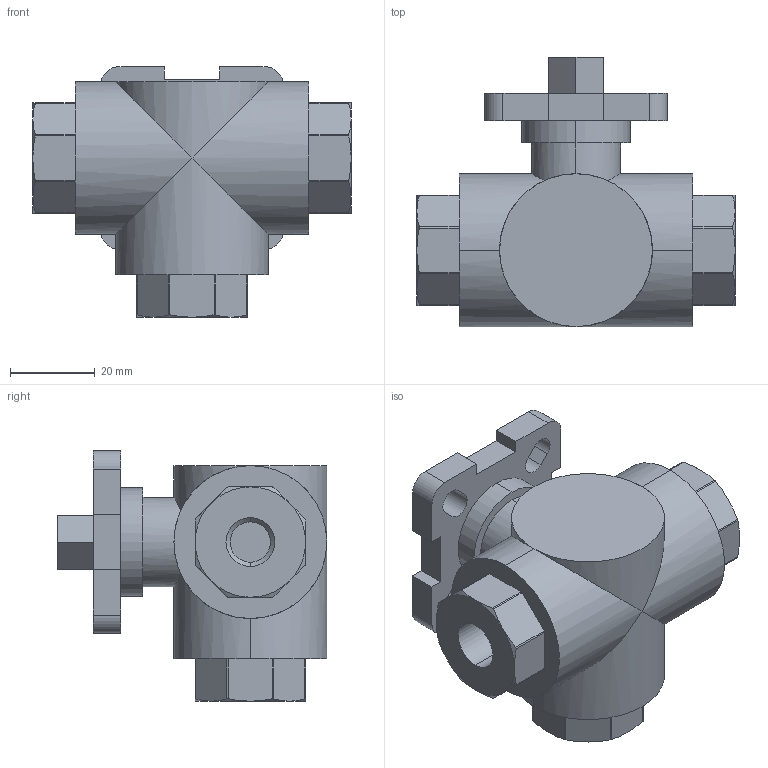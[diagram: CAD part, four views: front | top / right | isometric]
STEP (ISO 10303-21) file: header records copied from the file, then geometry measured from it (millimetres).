
FILE_DESCRIPTION (( 'STEP AP203' ), '1' );
FILE_NAME ('04.622I0070FVPB0.STEP', '2018-10-05T12:11:02', ( '' ), ( '' ), 'SwSTEP 2.0', 'SolidWorks 2014', '' );
FILE_SCHEMA (( 'CONFIG_CONTROL_DESIGN' ));
Length unit declared in the file: millimetre
Products named in the file (1): 04.622I0070FVPB0
Bounding box: 75 x 63.5 x 59 mm (x, y, z)
Volume: 97872.5 mm3; surface area: 20164.3 mm2
Topology: 1 solids, 1 shells, 164 faces, 416 edges, 263 vertices
Faces by surface type: plane 70, cylinder 64, cone 30
Entity records: 5247 total; most frequent: CARTESIAN_POINT 1212, ORIENTED_EDGE 832, DIRECTION 826, EDGE_CURVE 416, AXIS2_PLACEMENT_3D 307, VERTEX_POINT 263, LINE 212, VECTOR 212
